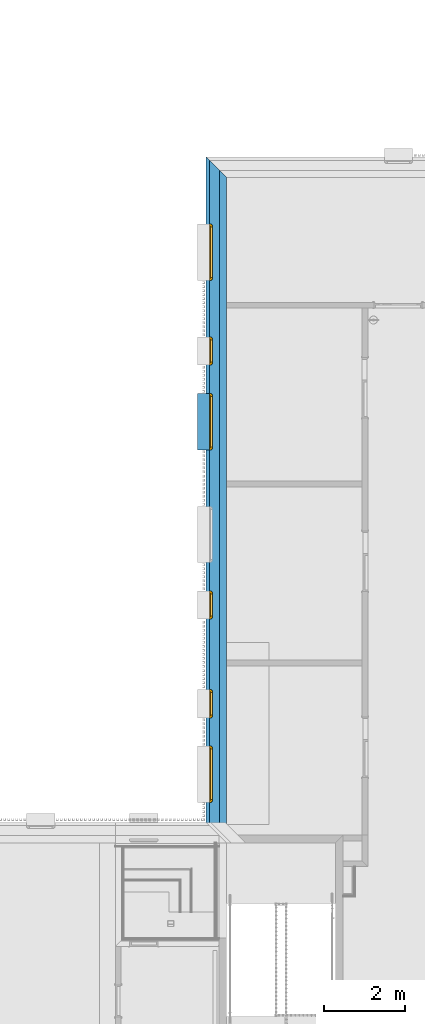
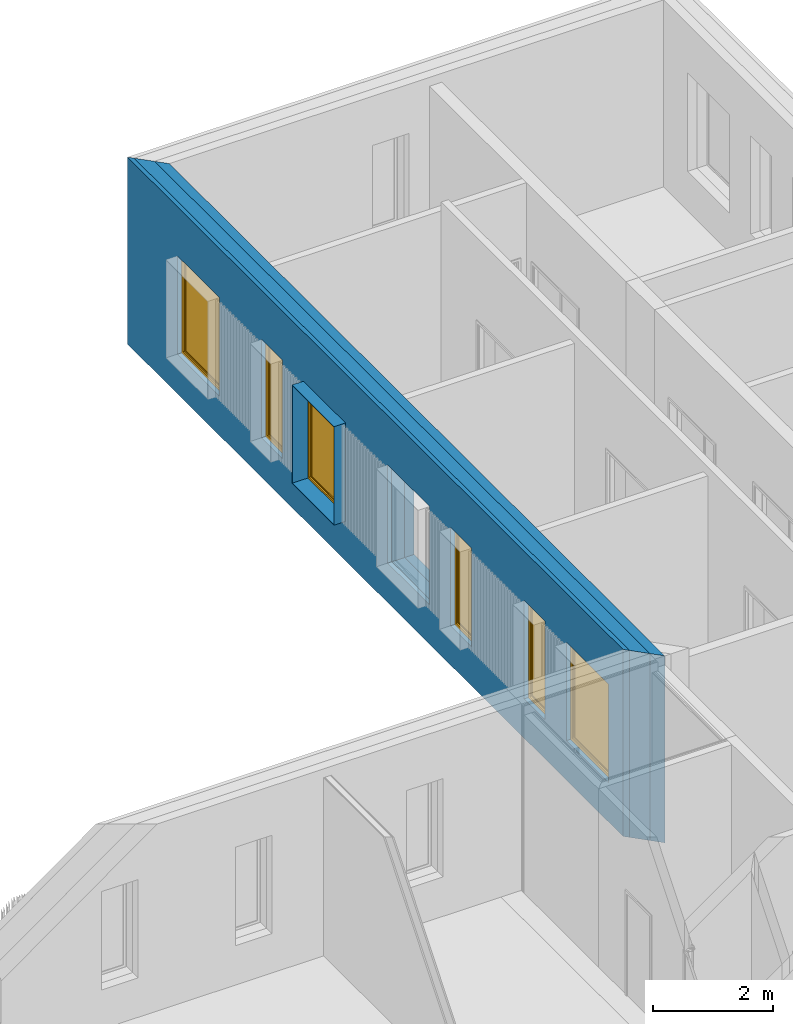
# One storey, part 43 of 100: 6 windows, 3 building element parts, 1 discrete accessory, 7 openings, 1 element without a shape of its own.
"""IFC2X3 building model written with IfcOpenShell, lengths in millimetres."""

from ifc_helpers import new_model, entity, si_unit, converted_unit, derived_unit, money_unit, direction, frame, origin_with_axes, origin_2d_with_axis, place, context, subcontext, project, spatial, polyline, rectangle, outline, extrude, open_shell, faceted_brep, surface_model, source, transform, mapped, material, type_object, element, fill, aggregate, save


model = new_model("IFC2X3")

# Units and contexts
model_context = context("Model", 3, precision=0.01, world=origin_with_axes(), true_north=direction((0.0, 1.0)))
body_context = subcontext(model_context, "Body", "Model", "MODEL_VIEW")
ifc_project = project(units=[si_unit("LENGTHUNIT", "METRE", prefix="MILLI"), si_unit("AREAUNIT", "SQUARE_METRE"), si_unit("VOLUMEUNIT", "CUBIC_METRE"), converted_unit("PLANEANGLEUNIT", "DEGREE", entity("IfcPlaneAngleMeasure", 0.0174532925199), si_unit("PLANEANGLEUNIT", "RADIAN"), dimensions=[0, 0, 0, 0, 0, 0, 0]), si_unit("SOLIDANGLEUNIT", "STERADIAN"), money_unit("EUR"), converted_unit("TIMEUNIT", "Year", entity("IfcTimeMeasure", 31556926.0), si_unit("TIMEUNIT", "SECOND"), dimensions=[0, 0, 1, 0, 0, 0, 0]), si_unit("MASSUNIT", "GRAM", prefix="KILO"), si_unit("THERMODYNAMICTEMPERATUREUNIT", "DEGREE_CELSIUS"), si_unit("LUMINOUSINTENSITYUNIT", "LUMEN"), si_unit("ENERGYUNIT", "JOULE", prefix="MEGA"), derived_unit("THERMALCONDUCTANCEUNIT", [(si_unit("POWERUNIT", "WATT"), 1), (si_unit("LENGTHUNIT", "METRE"), -1), (si_unit("THERMODYNAMICTEMPERATUREUNIT", "KELVIN"), -1)]), derived_unit("SPECIFICHEATCAPACITYUNIT", [(si_unit("ENERGYUNIT", "JOULE"), 1), (si_unit("MASSUNIT", "GRAM", prefix="KILO"), -1), (si_unit("THERMODYNAMICTEMPERATUREUNIT", "KELVIN"), -1)]), derived_unit("MASSDENSITYUNIT", [(si_unit("MASSUNIT", "GRAM", prefix="KILO"), 1), (si_unit("VOLUMEUNIT", "CUBIC_METRE"), -1)])], contexts=[model_context])

# Site, building, storey
site_placement = place(None, origin_with_axes())
site = spatial("IfcSite", under=ifc_project, at=site_placement, Name="Politse- ja Piirivalveameti ning Päästeameti ühishoone", CompositionType="ELEMENT")
building_placement = place(site_placement, origin_with_axes())
building = spatial("IfcBuilding", under=site, at=building_placement, Name="Politse- ja Piirivalveameti ning Päästeameti ühishoone", CompositionType="ELEMENT")
storey_placement = place(building_placement, frame((0.0, 0.0, 3800.0), z_axis=(0.0, 0.0, 1.0), x_axis=(1.0, 0.0, 0.0)))
storey = spatial("IfcBuildingStorey", under=building, at=storey_placement, Name="Teine korrus", CompositionType="ELEMENT", Elevation=3800.0)

# Window
window_style_1 = type_object("IfcWindowStyle", Name="Window 23", ConstructionType="NOTDEFINED", OperationType="SINGLE_PANEL", ParameterTakesPrecedence=False, Sizeable=False)
shared_shape_1 = source(origin_with_axes(), body_context, "Body", "SurfaceModel", [
    faceted_brep([(325.0, 0.0, 1950.0), (325.0, -25.0, 1950.0), (300.0, -25.0, 1950.0), (300.0, -50.0, 1950.0), (350.0, -50.0, 1950.0), (350.0, 0.0, 1950.0), (325.0, 0.0, 50.0), (325.0, -25.0, 50.0), (300.0, -25.0, 50.0), (300.0, -50.0, 50.0), (350.0, -50.0, 50.0), (350.0, 0.0, 50.0)], [[[0, 1, 2, 3, 4, 5]], [[1, 0, 6, 7]], [[8, 2, 1, 7]], [[2, 8, 9, 3]], [[4, 3, 9, 10]], [[5, 4, 10, 11]], [[6, 0, 5, 11]], [[7, 6, 11, 10, 9, 8]]]),
    faceted_brep([(-300.0, -25.0, 1950.0), (-325.0, -25.0, 1950.0), (-325.0, 0.0, 1950.0), (-350.0, 0.0, 1950.0), (-350.0, -50.0, 1950.0), (-300.0, -50.0, 1950.0), (-300.0, -25.0, 50.0), (-325.0, -25.0, 50.0), (-325.0, 0.0, 50.0), (-350.0, 0.0, 50.0), (-350.0, -50.0, 50.0), (-300.0, -50.0, 50.0)], [[[0, 1, 2, 3, 4, 5]], [[1, 0, 6, 7]], [[8, 2, 1, 7]], [[2, 8, 9, 3]], [[9, 10, 4, 3]], [[10, 11, 5, 4]], [[6, 0, 5, 11]], [[7, 6, 11, 10, 9, 8]]]),
    faceted_brep([(-300.0, -25.0, 50.0), (-325.0, -25.0, 50.0), (-325.0, 0.0, 50.0), (-350.0, 0.0, 50.0), (-350.0, -50.0, 50.0), (-300.0, -50.0, 50.0), (300.0, -25.0, 50.0), (325.0, -25.0, 50.0), (325.0, -25.0, 25.0), (-325.0, -25.0, 25.0), (-325.0, 0.0, 25.0), (325.0, 0.0, 25.0), (325.0, 0.0, 50.0), (350.0, 0.0, 50.0), (350.0, 0.0, 0.0), (-350.0, 0.0, 0.0), (-350.0, -50.0, 0.0), (350.0, -50.0, 50.0), (300.0, -50.0, 50.0), (350.0, -50.0, 0.0)], [[[0, 1, 2, 3, 4, 5]], [[1, 0, 6, 7, 8, 9]], [[10, 2, 1, 9]], [[11, 12, 13, 14, 15, 3, 2, 10]], [[15, 16, 4, 3]], [[17, 18, 5, 4, 16, 19]], [[6, 0, 5, 18]], [[7, 6, 18, 17, 13, 12]], [[7, 12, 11, 8]], [[11, 10, 9, 8]], [[13, 17, 19, 14]], [[14, 19, 16, 15]]]),
    faceted_brep([(325.0, 0.0, 1950.0), (325.0, 0.0, 1975.0), (-325.0, 0.0, 1975.0), (-325.0, 0.0, 1950.0), (-350.0, 0.0, 1950.0), (-350.0, 0.0, 2000.0), (350.0, 0.0, 2000.0), (350.0, 0.0, 1950.0), (325.0, -25.0, 1950.0), (325.0, -25.0, 1975.0), (-325.0, -25.0, 1975.0), (-325.0, -25.0, 1950.0), (-300.0, -25.0, 1950.0), (-300.0, -50.0, 1950.0), (-350.0, -50.0, 1950.0), (-350.0, -50.0, 2000.0), (350.0, -50.0, 2000.0), (350.0, -50.0, 1950.0), (300.0, -50.0, 1950.0), (300.0, -25.0, 1950.0)], [[[0, 1, 2, 3, 4, 5, 6, 7]], [[1, 0, 8, 9]], [[2, 1, 9, 10]], [[3, 2, 10, 11]], [[11, 12, 13, 14, 4, 3]], [[4, 14, 15, 5]], [[5, 15, 16, 6]], [[6, 16, 17, 7]], [[8, 0, 7, 17, 18, 19]], [[12, 11, 10, 9, 8, 19]], [[12, 19, 18, 13]], [[14, 13, 18, 17, 16, 15]]]),
    faceted_brep([(275.0, -25.0, 1925.0), (325.0, -25.0, 1925.0), (325.0, 25.0, 1925.0), (275.0, 25.0, 1925.0), (275.0, -25.0, 75.0), (325.0, -25.0, 75.0), (325.0, 25.0, 75.0), (275.0, 25.0, 75.0)], [[[0, 1, 2, 3]], [[0, 4, 5, 1]], [[1, 5, 6, 2]], [[3, 2, 6, 7]], [[4, 0, 3, 7]], [[5, 4, 7, 6]]]),
    faceted_brep([(-275.0, -25.0, 75.0), (-325.0, -25.0, 75.0), (-325.0, 25.0, 75.0), (-275.0, 25.0, 75.0), (-275.0, -25.0, 1925.0), (-325.0, -25.0, 1925.0), (-325.0, 25.0, 1925.0), (-275.0, 25.0, 1925.0)], [[[0, 1, 2, 3]], [[0, 4, 5, 1]], [[1, 5, 6, 2]], [[3, 2, 6, 7]], [[4, 0, 3, 7]], [[5, 4, 7, 6]]]),
    faceted_brep([(-325.0, -25.0, 25.0), (-325.0, -25.0, 75.0), (-325.0, 25.0, 75.0), (-325.0, 25.0, 25.0), (325.0, -25.0, 25.0), (325.0, -25.0, 75.0), (275.0, -25.0, 75.0), (-275.0, -25.0, 75.0), (-275.0, 25.0, 75.0), (275.0, 25.0, 75.0), (325.0, 25.0, 75.0), (325.0, 25.0, 25.0)], [[[0, 1, 2, 3]], [[0, 4, 5, 6, 7, 1]], [[1, 7, 8, 2]], [[3, 2, 8, 9, 10, 11]], [[4, 0, 3, 11]], [[5, 4, 11, 10]], [[6, 5, 10, 9]], [[7, 6, 9, 8]]]),
    faceted_brep([(325.0, -25.0, 1975.0), (325.0, -25.0, 1925.0), (325.0, 25.0, 1925.0), (325.0, 25.0, 1975.0), (-325.0, -25.0, 1975.0), (-325.0, -25.0, 1925.0), (-275.0, -25.0, 1925.0), (275.0, -25.0, 1925.0), (275.0, 25.0, 1925.0), (-275.0, 25.0, 1925.0), (-325.0, 25.0, 1925.0), (-325.0, 25.0, 1975.0)], [[[0, 1, 2, 3]], [[0, 4, 5, 6, 7, 1]], [[1, 7, 8, 2]], [[3, 2, 8, 9, 10, 11]], [[4, 0, 3, 11]], [[5, 4, 11, 10]], [[6, 5, 10, 9]], [[7, 6, 9, 8]]]),
    surface_model("IfcShellBasedSurfaceModel", [(275.0, -10.0, 75.0), (275.0, -10.0, 1925.0), (-275.0, -10.0, 1925.0), (-275.0, -10.0, 75.0)], [open_shell([[[0, 1, 2, 3]]])]),
    surface_model("IfcShellBasedSurfaceModel", [(275.0, 10.0, 75.0), (-275.0, 10.0, 75.0), (-275.0, 10.0, 1925.0), (275.0, 10.0, 1925.0)], [open_shell([[[0, 1, 2, 3]]])]),
])
wall_placement = place(storey_placement, frame((60160.5519118, 37499.9521318, 0.0), z_axis=(0.0, 0.0, 1.0), x_axis=(0.0, -1.0, 0.0)))
opening_3_placement = place(wall_placement, frame((13050.0000486, 0.0, 800.0), z_axis=(0.0, 0.0, 1.0), x_axis=(1.0, 0.0, 0.0)))
window_1_placement = place(opening_3_placement, frame((-350.0, 0.0, 0.0), z_axis=(0.0, 0.0, 1.0), x_axis=(1.0, 0.0, 0.0)))
window_1 = element("IfcWindow", 1, at=window_1_placement, inside=storey, type_object=window_style_1, Name="A-01", ObjectType="WINDOW", OverallHeight=2000.0, OverallWidth=700.0, context=body_context, shape_type="MappedRepresentation", body=[
    mapped(shared_shape_1, transform((350.0, -380.0, 0.0))),
])

opening_5_placement = place(wall_placement, frame((4300.00004858, 0.0, 800.0), z_axis=(0.0, 0.0, 1.0), x_axis=(1.0, 0.0, 0.0)))
window_2_placement = place(opening_5_placement, frame((-350.0, 0.0, 0.0), z_axis=(0.0, 0.0, 1.0), x_axis=(1.0, 0.0, 0.0)))
window_2 = element("IfcWindow", 2, at=window_2_placement, inside=storey, type_object=window_style_1, Name="A-01", ObjectType="WINDOW", OverallHeight=2000.0, OverallWidth=700.0, context=body_context, shape_type="MappedRepresentation", body=[
    mapped(shared_shape_1, transform((350.0, -380.0, 0.0))),
])

opening_6_placement = place(wall_placement, frame((10600.4316032, 0.0, 800.0), z_axis=(0.0, 0.0, 1.0), x_axis=(1.0, 0.0, 0.0)))
window_3_placement = place(opening_6_placement, frame((-350.0, 0.0, 0.0), z_axis=(0.0, 0.0, 1.0), x_axis=(1.0, 0.0, 0.0)))
window_3 = element("IfcWindow", 3, at=window_3_placement, inside=storey, type_object=window_style_1, Name="A-01", ObjectType="WINDOW", OverallHeight=2000.0, OverallWidth=700.0, context=body_context, shape_type="MappedRepresentation", body=[
    mapped(shared_shape_1, transform((350.0, -380.0, 0.0))),
])

window_style_2 = type_object("IfcWindowStyle", Name="Window 23", ConstructionType="NOTDEFINED", OperationType="SINGLE_PANEL", ParameterTakesPrecedence=False, Sizeable=False)
shared_shape_2 = source(origin_with_axes(), body_context, "Body", "SurfaceModel", [
    faceted_brep([(-675.0, 0.0, 1950.0), (-700.0, 0.0, 1950.0), (-700.0, -50.0, 1950.0), (-650.0, -50.0, 1950.0), (-650.0, -25.0, 1950.0), (-675.0, -25.0, 1950.0), (-675.0, 0.0, 50.0), (-700.0, 0.0, 50.0), (-700.0, -50.0, 50.0), (-650.0, -50.0, 50.0), (-650.0, -25.0, 50.0), (-675.0, -25.0, 50.0)], [[[0, 1, 2, 3, 4, 5]], [[6, 7, 1, 0]], [[1, 7, 8, 2]], [[2, 8, 9, 3]], [[4, 3, 9, 10]], [[10, 11, 5, 4]], [[5, 11, 6, 0]], [[11, 10, 9, 8, 7, 6]]]),
    faceted_brep([(650.0, -25.0, 1950.0), (650.0, -50.0, 1950.0), (700.0, -50.0, 1950.0), (700.0, 0.0, 1950.0), (675.0, 0.0, 1950.0), (675.0, -25.0, 1950.0), (650.0, -25.0, 50.0), (650.0, -50.0, 50.0), (700.0, -50.0, 50.0), (700.0, 0.0, 50.0), (675.0, 0.0, 50.0), (675.0, -25.0, 50.0)], [[[0, 1, 2, 3, 4, 5]], [[6, 7, 1, 0]], [[8, 2, 1, 7]], [[9, 3, 2, 8]], [[4, 3, 9, 10]], [[10, 11, 5, 4]], [[5, 11, 6, 0]], [[11, 10, 9, 8, 7, 6]]]),
    faceted_brep([(650.0, -25.0, 50.0), (650.0, -50.0, 50.0), (700.0, -50.0, 50.0), (700.0, 0.0, 50.0), (675.0, 0.0, 50.0), (675.0, -25.0, 50.0), (-650.0, -25.0, 50.0), (-650.0, -50.0, 50.0), (-700.0, -50.0, 50.0), (-700.0, -50.0, 0.0), (700.0, -50.0, 0.0), (700.0, 0.0, 0.0), (-675.0, 0.0, 25.0), (675.0, 0.0, 25.0), (-700.0, 0.0, 0.0), (-700.0, 0.0, 50.0), (-675.0, 0.0, 50.0), (675.0, -25.0, 25.0), (-675.0, -25.0, 25.0), (-675.0, -25.0, 50.0)], [[[0, 1, 2, 3, 4, 5]], [[6, 7, 1, 0]], [[8, 9, 10, 2, 1, 7]], [[11, 3, 2, 10]], [[12, 13, 4, 3, 11, 14, 15, 16]], [[13, 17, 5, 4]], [[5, 17, 18, 19, 6, 0]], [[19, 16, 15, 8, 7, 6]], [[15, 14, 9, 8]], [[14, 11, 10, 9]], [[12, 18, 17, 13]], [[19, 18, 12, 16]]]),
    faceted_brep([(-675.0, 0.0, 1950.0), (-700.0, 0.0, 1950.0), (-700.0, 0.0, 2000.0), (700.0, 0.0, 2000.0), (700.0, 0.0, 1950.0), (675.0, 0.0, 1950.0), (675.0, 0.0, 1975.0), (-675.0, 0.0, 1975.0), (-675.0, -25.0, 1950.0), (-650.0, -25.0, 1950.0), (-650.0, -50.0, 1950.0), (-700.0, -50.0, 1950.0), (-700.0, -50.0, 2000.0), (700.0, -50.0, 2000.0), (700.0, -50.0, 1950.0), (675.0, -25.0, 1950.0), (650.0, -50.0, 1950.0), (650.0, -25.0, 1950.0), (675.0, -25.0, 1975.0), (-675.0, -25.0, 1975.0)], [[[0, 1, 2, 3, 4, 5, 6, 7]], [[8, 9, 10, 11, 1, 0]], [[2, 1, 11, 12]], [[3, 2, 12, 13]], [[4, 3, 13, 14]], [[15, 5, 4, 14, 16, 17]], [[5, 15, 18, 6]], [[6, 18, 19, 7]], [[7, 19, 8, 0]], [[17, 9, 8, 19, 18, 15]], [[17, 16, 10, 9]], [[14, 13, 12, 11, 10, 16]]]),
    faceted_brep([(-625.0, -25.0, 1925.0), (-625.0, 25.0, 1925.0), (-675.0, 25.0, 1925.0), (-675.0, -25.0, 1925.0), (-625.0, -25.0, 75.0), (-625.0, 25.0, 75.0), (-675.0, 25.0, 75.0), (-675.0, -25.0, 75.0)], [[[0, 1, 2, 3]], [[4, 5, 1, 0]], [[1, 5, 6, 2]], [[3, 2, 6, 7]], [[0, 3, 7, 4]], [[7, 6, 5, 4]]]),
    faceted_brep([(625.0, -25.0, 75.0), (625.0, 25.0, 75.0), (675.0, 25.0, 75.0), (675.0, -25.0, 75.0), (625.0, -25.0, 1925.0), (625.0, 25.0, 1925.0), (675.0, 25.0, 1925.0), (675.0, -25.0, 1925.0)], [[[0, 1, 2, 3]], [[4, 5, 1, 0]], [[1, 5, 6, 2]], [[3, 2, 6, 7]], [[0, 3, 7, 4]], [[7, 6, 5, 4]]]),
    faceted_brep([(675.0, -25.0, 25.0), (675.0, 25.0, 25.0), (675.0, 25.0, 75.0), (675.0, -25.0, 75.0), (-675.0, -25.0, 25.0), (-675.0, 25.0, 25.0), (-675.0, 25.0, 75.0), (-625.0, 25.0, 75.0), (625.0, 25.0, 75.0), (625.0, -25.0, 75.0), (-625.0, -25.0, 75.0), (-675.0, -25.0, 75.0)], [[[0, 1, 2, 3]], [[4, 5, 1, 0]], [[1, 5, 6, 7, 8, 2]], [[3, 2, 8, 9]], [[0, 3, 9, 10, 11, 4]], [[11, 6, 5, 4]], [[10, 7, 6, 11]], [[9, 8, 7, 10]]]),
    faceted_brep([(-675.0, -25.0, 1975.0), (-675.0, 25.0, 1975.0), (-675.0, 25.0, 1925.0), (-675.0, -25.0, 1925.0), (675.0, -25.0, 1975.0), (675.0, 25.0, 1975.0), (675.0, 25.0, 1925.0), (625.0, 25.0, 1925.0), (-625.0, 25.0, 1925.0), (-625.0, -25.0, 1925.0), (625.0, -25.0, 1925.0), (675.0, -25.0, 1925.0)], [[[0, 1, 2, 3]], [[4, 5, 1, 0]], [[1, 5, 6, 7, 8, 2]], [[3, 2, 8, 9]], [[0, 3, 9, 10, 11, 4]], [[11, 6, 5, 4]], [[10, 7, 6, 11]], [[9, 8, 7, 10]]]),
    surface_model("IfcShellBasedSurfaceModel", [(-625.0, -10.0, 75.0), (625.0, -10.0, 75.0), (625.0, -10.0, 1925.0), (-625.0, -10.0, 1925.0)], [open_shell([[[0, 1, 2, 3]]])]),
    surface_model("IfcShellBasedSurfaceModel", [(-625.0, 10.0, 75.0), (-625.0, 10.0, 1925.0), (625.0, 10.0, 1925.0), (625.0, 10.0, 75.0)], [open_shell([[[0, 1, 2, 3]]])]),
])
opening_2_placement = place(wall_placement, frame((6050.00004858, 0.0, 800.0), z_axis=(0.0, 0.0, 1.0), x_axis=(1.0, 0.0, 0.0)))
window_4_placement = place(opening_2_placement, frame((-700.0, 0.0, 0.0), z_axis=(0.0, 0.0, 1.0), x_axis=(1.0, 0.0, 0.0)))
window_4 = element("IfcWindow", 4, at=window_4_placement, inside=storey, type_object=window_style_2, Name="A-02", ObjectType="WINDOW", OverallHeight=2000.0, OverallWidth=1400.0, context=body_context, shape_type="MappedRepresentation", body=[
    mapped(shared_shape_2, transform((700.0, -380.0, 0.0))),
])

opening_4_placement = place(wall_placement, frame((14800.0000486, 0.0, 800.0), z_axis=(0.0, 0.0, 1.0), x_axis=(1.0, 0.0, 0.0)))
window_5_placement = place(opening_4_placement, frame((-700.0, 0.0, 0.0), z_axis=(0.0, 0.0, 1.0), x_axis=(1.0, 0.0, 0.0)))
window_5 = element("IfcWindow", 5, at=window_5_placement, inside=storey, type_object=window_style_2, Name="A-02", ObjectType="WINDOW", OverallHeight=2000.0, OverallWidth=1400.0, context=body_context, shape_type="MappedRepresentation", body=[
    mapped(shared_shape_2, transform((700.0, -380.0, 0.0))),
])

opening_7_placement = place(wall_placement, frame((1850.00004858, 0.0, 800.0), z_axis=(0.0, 0.0, 1.0), x_axis=(1.0, 0.0, 0.0)))
window_6_placement = place(opening_7_placement, frame((-700.0, 0.0, 0.0), z_axis=(0.0, 0.0, 1.0), x_axis=(1.0, 0.0, 0.0)))
window_6 = element("IfcWindow", 6, at=window_6_placement, inside=storey, type_object=window_style_2, Name="A-02", ObjectType="WINDOW", OverallHeight=2000.0, OverallWidth=1400.0, context=body_context, shape_type="MappedRepresentation", body=[
    mapped(shared_shape_2, transform((700.0, -380.0, 0.0))),
])

# Discrete accessory
ifc_material_1 = material(Name="SV-01_Krohv - Kips")
discrete_accessory_type = type_object("IfcDiscreteAccessoryType", Name="Architrave 01 23")
shared_shape_3 = source(origin_with_axes(), body_context, "Body", "Brep", [
    faceted_brep([(700.0, 0.0, -10.0), (700.0, -300.182356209, -10.0), (-700.0, -300.182356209, -10.0), (-700.0, 0.0, -10.0), (690.0, 0.0, 0.0), (690.0, -300.182356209, 0.0), (-690.0, -300.182356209, 0.0), (-690.0, 0.0, 0.0)], [[[0, 1, 2, 3]], [[4, 5, 1, 0]], [[1, 5, 6, 2]], [[3, 2, 6, 7]], [[0, 3, 7, 4]], [[7, 6, 5, 4]]]),
    faceted_brep([(-700.0, 0.0, -10.0), (-700.0, -300.182356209, -10.0), (-700.0, -300.182356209, 1990.0), (-700.0, 0.0, 1990.0), (-690.0, 0.0, 0.0), (-690.0, -300.182356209, 0.0), (-690.0, -300.182356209, 1980.0), (-690.0, 0.0, 1980.0)], [[[0, 1, 2, 3]], [[4, 5, 1, 0]], [[1, 5, 6, 2]], [[3, 2, 6, 7]], [[0, 3, 7, 4]], [[7, 6, 5, 4]]]),
    faceted_brep([(-700.0, 0.0, 1990.0), (-700.0, -300.182356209, 1990.0), (700.0, -300.182356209, 1990.0), (700.0, 0.0, 1990.0), (-690.0, 0.0, 1980.0), (-690.0, -300.182356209, 1980.0), (690.0, -300.182356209, 1980.0), (690.0, 0.0, 1980.0)], [[[0, 1, 2, 3]], [[4, 5, 1, 0]], [[1, 5, 6, 2]], [[3, 2, 6, 7]], [[0, 3, 7, 4]], [[7, 6, 5, 4]]]),
    faceted_brep([(700.0, 0.0, 1990.0), (700.0, -300.182356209, 1990.0), (700.0, -300.182356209, -10.0), (700.0, 0.0, -10.0), (690.0, 0.0, 1980.0), (690.0, -300.182356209, 1980.0), (690.0, -300.182356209, 0.0), (690.0, 0.0, 0.0)], [[[0, 1, 2, 3]], [[4, 5, 1, 0]], [[1, 5, 6, 2]], [[3, 2, 6, 7]], [[0, 3, 7, 4]], [[7, 6, 5, 4]]]),
])
discrete_accessory_placement = place(storey_placement, frame((59730.5519118, 31449.9520832, 810.0), z_axis=(0.0, 0.0, 1.0), x_axis=(0.0, -1.0, 0.0)))
element("IfcDiscreteAccessory", 7, at=discrete_accessory_placement, inside=storey, type_object=discrete_accessory_type, material=ifc_material_1, Name="AKNARAAM 01", context=body_context, shape_type="MappedRepresentation", body=[
    mapped(shared_shape_3, transform((0.0, 0.0, 0.0))),
])

# Wall, openings
wall_type = type_object("IfcWallType", Name="VS-01_välissein 510", PredefinedType="NOTDEFINED")
wall = element("IfcWall", 8, at=wall_placement, inside=storey, type_object=wall_type, Name="VS-01")
opening_1_placement = place(wall_placement, frame((8850.48527148, 0.0, 800.0), z_axis=(0.0, 0.0, 1.0), x_axis=(1.0, 0.0, 0.0)))
element("IfcOpeningElement", 9, at=opening_1_placement, cuts=wall, Name="A-02", context=body_context, shape_type="SweptSolid", body=[
    extrude(rectangle(XDim=1400.0, YDim=2000.0, at=origin_2d_with_axis()), frame((0.0, -430.0, 1000.0), z_axis=(0.0, 1.0, 0.0), x_axis=(-1.0, 0.0, 0.0)), (0.0, 0.0, 1.0), 940.0),
    extrude(rectangle(XDim=1400.0, YDim=2000.0, at=origin_2d_with_axis()), frame((0.0, -430.0, 1000.0), z_axis=(0.0, -1.0, 0.0), x_axis=(-1.0, 0.0, 0.0)), (0.0, 0.0, 1.0), 590.0),
])
opening_2 = element("IfcOpeningElement", 10, at=opening_2_placement, cuts=wall, Name="A-02", context=body_context, shape_type="SweptSolid", body=[
    extrude(rectangle(XDim=1400.0, YDim=2000.0, at=origin_2d_with_axis()), frame((0.0, -430.0, 1000.0), z_axis=(0.0, -1.0, 0.0), x_axis=(1.0, 0.0, 0.0)), (0.0, 0.0, -1.0), 940.0),
    extrude(rectangle(XDim=1400.0, YDim=2000.0, at=origin_2d_with_axis()), frame((0.0, -430.0, 1000.0), z_axis=(0.0, 1.0, 0.0), x_axis=(1.0, 0.0, 0.0)), (0.0, 0.0, -1.0), 590.0),
])

fill(opening_2, window_4)

# Opening
opening_3 = element("IfcOpeningElement", 11, at=opening_3_placement, cuts=wall, Name="A-01", context=body_context, shape_type="SweptSolid", body=[
    extrude(rectangle(XDim=700.0, YDim=2000.0, at=origin_2d_with_axis()), frame((0.0, -430.0, 1000.0), z_axis=(0.0, 1.0, 0.0), x_axis=(-1.0, 0.0, 0.0)), (0.0, 0.0, 1.0), 940.0),
    extrude(rectangle(XDim=700.0, YDim=2000.0, at=origin_2d_with_axis()), frame((0.0, -430.0, 1000.0), z_axis=(0.0, -1.0, 0.0), x_axis=(-1.0, 0.0, 0.0)), (0.0, 0.0, 1.0), 590.0),
])

fill(opening_3, window_1)

opening_4 = element("IfcOpeningElement", 12, at=opening_4_placement, cuts=wall, Name="A-02", context=body_context, shape_type="SweptSolid", body=[
    extrude(rectangle(XDim=1400.0, YDim=2000.0, at=origin_2d_with_axis()), frame((0.0, -430.0, 1000.0), z_axis=(0.0, -1.0, 0.0), x_axis=(1.0, 0.0, 0.0)), (0.0, 0.0, -1.0), 940.0),
    extrude(rectangle(XDim=1400.0, YDim=2000.0, at=origin_2d_with_axis()), frame((0.0, -430.0, 1000.0), z_axis=(0.0, 1.0, 0.0), x_axis=(1.0, 0.0, 0.0)), (0.0, 0.0, -1.0), 590.0),
])

fill(opening_4, window_5)

opening_5 = element("IfcOpeningElement", 13, at=opening_5_placement, cuts=wall, Name="A-01", context=body_context, shape_type="SweptSolid", body=[
    extrude(rectangle(XDim=700.0, YDim=2000.0, at=origin_2d_with_axis()), frame((0.0, -430.0, 1000.0), z_axis=(0.0, 1.0, 0.0), x_axis=(-1.0, 0.0, 0.0)), (0.0, 0.0, 1.0), 940.0),
    extrude(rectangle(XDim=700.0, YDim=2000.0, at=origin_2d_with_axis()), frame((0.0, -430.0, 1000.0), z_axis=(0.0, -1.0, 0.0), x_axis=(-1.0, 0.0, 0.0)), (0.0, 0.0, 1.0), 590.0),
])

fill(opening_5, window_2)

opening_6 = element("IfcOpeningElement", 14, at=opening_6_placement, cuts=wall, Name="A-01", context=body_context, shape_type="SweptSolid", body=[
    extrude(rectangle(XDim=700.0, YDim=2000.0, at=origin_2d_with_axis()), frame((0.0, -430.0, 1000.0), z_axis=(0.0, 1.0, 0.0), x_axis=(-1.0, 0.0, 0.0)), (0.0, 0.0, 1.0), 940.0),
    extrude(rectangle(XDim=700.0, YDim=2000.0, at=origin_2d_with_axis()), frame((0.0, -430.0, 1000.0), z_axis=(0.0, -1.0, 0.0), x_axis=(-1.0, 0.0, 0.0)), (0.0, 0.0, 1.0), 590.0),
])

fill(opening_6, window_3)

opening_7 = element("IfcOpeningElement", 15, at=opening_7_placement, cuts=wall, Name="A-02", context=body_context, shape_type="SweptSolid", body=[
    extrude(rectangle(XDim=1400.0, YDim=2000.0, at=origin_2d_with_axis()), frame((0.0, -430.0, 1000.0), z_axis=(0.0, -1.0, 0.0), x_axis=(1.0, 0.0, 0.0)), (0.0, 0.0, -1.0), 940.0),
    extrude(rectangle(XDim=1400.0, YDim=2000.0, at=origin_2d_with_axis()), frame((0.0, -430.0, 1000.0), z_axis=(0.0, 1.0, 0.0), x_axis=(1.0, 0.0, 0.0)), (0.0, 0.0, -1.0), 590.0),
])

fill(opening_7, window_6)

# Building element part
ifc_material_2 = material(Name="KON-04_Betoon - Konstuktsioon")
building_element_part_1_placement = place(wall_placement, origin_with_axes())
building_element_part_1 = element("IfcBuildingElementPart", 16, at=building_element_part_1_placement, material=ifc_material_2, Name="KON-04_Betoon - Konstuktsioon", context=body_context, shape_type="SweptSolid", body=[
    extrude(outline(polyline([(-180.0, -180.0), (16319.9985004, -180.0), (16499.998494, 0.0), (0.0, 0.0), (-180.0, -180.0)])), origin_with_axes(), (0.0, 0.0, 1.0), 3800.0),
])

ifc_material_3 = material(Name="SOJ-06_Soojustus - Plastik Kõva")
building_element_part_2_placement = place(wall_placement, origin_with_axes())
building_element_part_2 = element("IfcBuildingElementPart", 17, at=building_element_part_2_placement, material=ifc_material_3, Name="SOJ-06_Soojustus - Plastik Kõva", context=body_context, shape_type="SweptSolid", body=[
    extrude(outline(polyline([(-430.0, -430.0), (16069.9985094, -430.0), (16319.9985004, -180.0), (-180.0, -180.0), (-430.0, -430.0)])), origin_with_axes(), (0.0, 0.0, 1.0), 3800.0),
])

building_element_part_3_placement = place(wall_placement, origin_with_axes())
building_element_part_3 = element("IfcBuildingElementPart", 18, at=building_element_part_3_placement, material=ifc_material_2, Name="KON-04_Betoon - Konstuktsioon", context=body_context, shape_type="SweptSolid", body=[
    extrude(outline(polyline([(-510.0, -510.0), (15989.9985123, -510.0), (16069.9985094, -430.0), (-430.0, -430.0), (-510.0, -510.0)])), origin_with_axes(), (0.0, 0.0, 1.0), 3800.0),
])

aggregate(wall, [building_element_part_1, building_element_part_2, building_element_part_3])

save(model, "model.ifc")
